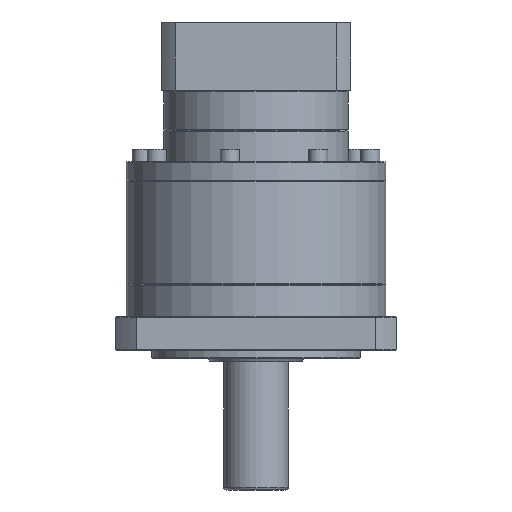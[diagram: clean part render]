
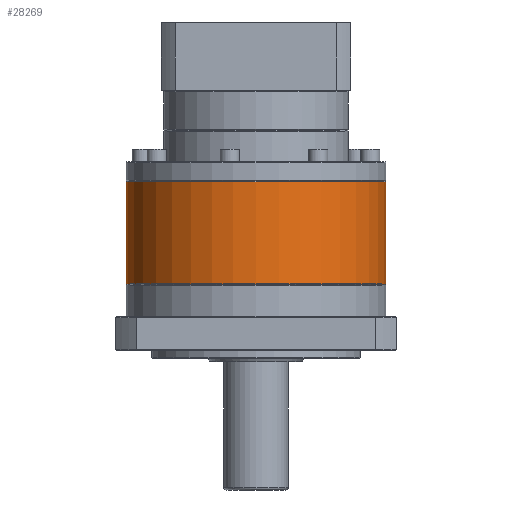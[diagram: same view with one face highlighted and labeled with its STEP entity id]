
A CAD part, front view. The second image highlights one B-rep face of the part: STEP entity #28269.
In plain terms, the highlighted cylindrical face has radius 81 mm (diameter 162 mm), a partial arc.
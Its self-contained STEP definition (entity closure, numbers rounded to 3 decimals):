
#1691 = CARTESIAN_POINT ( 'NONE',  ( -223.242, 105.463, -75.364 ) ) ;
#1777 = CARTESIAN_POINT ( 'NONE',  ( -142.242, 105.463, -138.864 ) ) ;
#4723 = DIRECTION ( 'NONE',  ( 0., 0., -1. ) ) ;
#8678 = CARTESIAN_POINT ( 'NONE',  ( -142.242, 105.463, -74.864 ) ) ;
#12663 = AXIS2_PLACEMENT_3D ( 'NONE', #8678, #51206, #74457 ) ;
#16356 = AXIS2_PLACEMENT_3D ( 'NONE', #1777, #122193, #33207 ) ;
#18410 = ORIENTED_EDGE ( 'NONE', *, *, #42699, .T. ) ;
#21744 = ORIENTED_EDGE ( 'NONE', *, *, #106347, .F. ) ;
#24542 = VERTEX_POINT ( 'NONE', #31114 ) ;
#26227 = DIRECTION ( 'NONE',  ( 0., 0., -1. ) ) ;
#28269 = ADVANCED_FACE ( 'NONE', ( #119617 ), #46905, .T. ) ;
#30993 = CARTESIAN_POINT ( 'NONE',  ( -61.242, 105.463, -75.364 ) ) ;
#31114 = CARTESIAN_POINT ( 'NONE',  ( -61.242, 105.463, -138.864 ) ) ;
#33207 = DIRECTION ( 'NONE',  ( -1., 0., 0. ) ) ;
#33350 = LINE ( 'NONE', #71634, #97408 ) ;
#36750 = AXIS2_PLACEMENT_3D ( 'NONE', #101234, #122463, #69243 ) ;
#37567 = ORIENTED_EDGE ( 'NONE', *, *, #62368, .T. ) ;
#42699 = EDGE_CURVE ( 'NONE', #49152, #124226, #140113, .T. ) ;
#43756 = VERTEX_POINT ( 'NONE', #30993 ) ;
#46905 = CYLINDRICAL_SURFACE ( 'NONE', #12663, 81. ) ;
#49152 = VERTEX_POINT ( 'NONE', #1691 ) ;
#49785 = CIRCLE ( 'NONE', #16356, 81. ) ;
#51206 = DIRECTION ( 'NONE',  ( 0., 0., -1. ) ) ;
#62211 = VECTOR ( 'NONE', #4723, 1000. ) ;
#62368 = EDGE_CURVE ( 'NONE', #124226, #24542, #49785, .T. ) ;
#69243 = DIRECTION ( 'NONE',  ( -1., 0., 0. ) ) ;
#71634 = CARTESIAN_POINT ( 'NONE',  ( -61.242, 105.463, -74.864 ) ) ;
#74457 = DIRECTION ( 'NONE',  ( -1., 0., 0. ) ) ;
#76661 = CARTESIAN_POINT ( 'NONE',  ( -223.242, 105.463, -138.864 ) ) ;
#84361 = EDGE_CURVE ( 'NONE', #43756, #49152, #118203, .T. ) ;
#97408 = VECTOR ( 'NONE', #26227, 1000. ) ;
#101163 = ORIENTED_EDGE ( 'NONE', *, *, #84361, .T. ) ;
#101234 = CARTESIAN_POINT ( 'NONE',  ( -142.242, 105.463, -75.364 ) ) ;
#103924 = CARTESIAN_POINT ( 'NONE',  ( -223.242, 105.463, -74.864 ) ) ;
#106347 = EDGE_CURVE ( 'NONE', #43756, #24542, #33350, .T. ) ;
#110807 = EDGE_LOOP ( 'NONE', ( #21744, #101163, #18410, #37567 ) ) ;
#118203 = CIRCLE ( 'NONE', #36750, 81. ) ;
#119617 = FACE_OUTER_BOUND ( 'NONE', #110807, .T. ) ;
#122193 = DIRECTION ( 'NONE',  ( 0., 0., 1. ) ) ;
#122463 = DIRECTION ( 'NONE',  ( 0., 0., -1. ) ) ;
#124226 = VERTEX_POINT ( 'NONE', #76661 ) ;
#140113 = LINE ( 'NONE', #103924, #62211 ) ;
